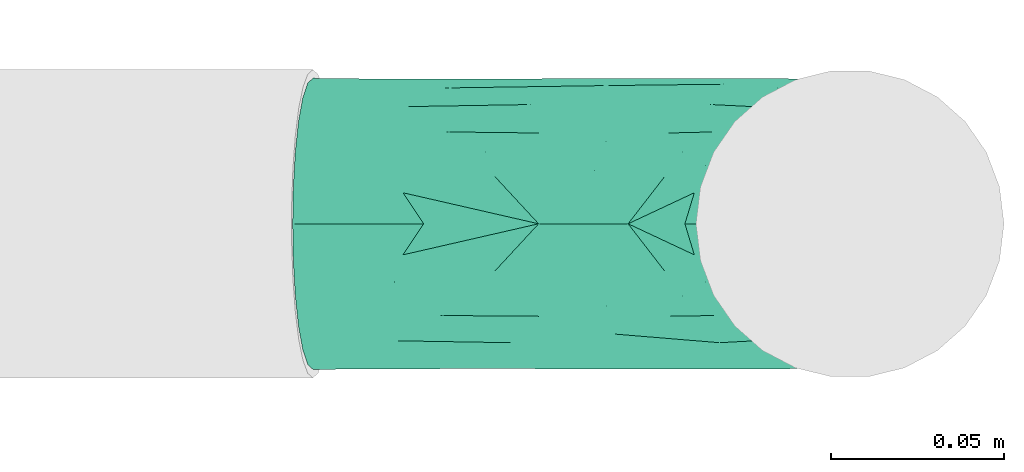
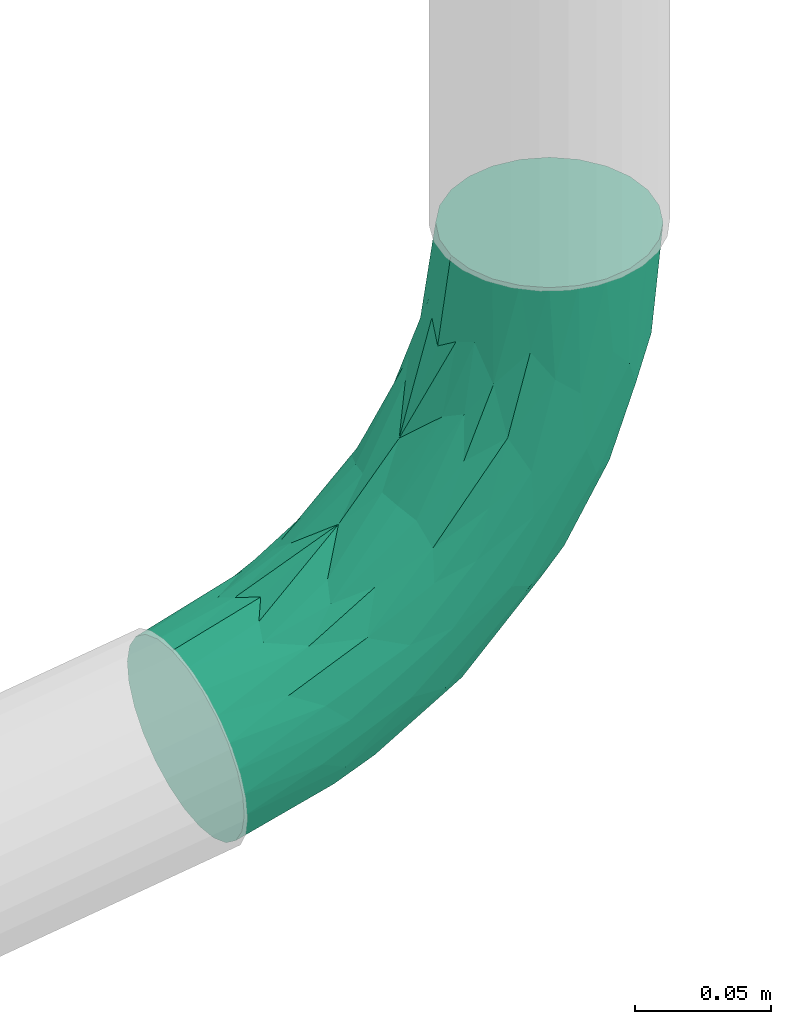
# One storey, part 13 of 55: 1 flow fitting.
"""IFC2X3 building model written with IfcOpenShell, lengths in millimetres."""

from ifc_helpers import new_model, entity, si_unit, converted_unit, direction, frame, origin, place, context, subcontext, project, spatial, faceted_brep, source, transform, mapped, material, type_object, type_shapes, element, save


model = new_model("IFC2X3")

# Units and contexts
model_context = context("Model", 3, precision=0.01, world=origin(), true_north=direction((6.123233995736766e-17, 1.0)))
plan_context = context("Plan", 3, precision=0.01, world=origin(), true_north=direction((6.123233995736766e-17, 1.0)))
body_context = subcontext(model_context, "Body", "Model", "MODEL_VIEW")
ifc_project = project(units=[si_unit("LENGTHUNIT", "METRE", prefix="MILLI"), converted_unit("PLANEANGLEUNIT", "DEGREE", entity("IfcPlaneAngleMeasure", 0.017453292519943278), si_unit("PLANEANGLEUNIT", "RADIAN"), dimensions=[0, 0, 0, 0, 0, 0, 0]), si_unit("AREAUNIT", "SQUARE_METRE")], contexts=[model_context, plan_context])

# Site, building, storey
site_placement = place(None, origin())
site = spatial("IfcSite", under=ifc_project, at=site_placement, Name="Default", CompositionType="ELEMENT")
building_placement = place(site_placement, origin())
building = spatial("IfcBuilding", under=site, at=building_placement, CompositionType="ELEMENT")
storey_placement = place(building_placement, origin())
storey = spatial("IfcBuildingStorey", under=building, at=storey_placement, Name="1K", CompositionType="ELEMENT", Elevation=0.0)

# Flow fitting
ifc_material = material(Name="<Unnamed>")
pipe_fitting_type = type_object("IfcPipeFittingType", Name="Elbow - Welded - SS:D+100", PredefinedType="NOTDEFINED", material=ifc_material)
shared_shape = source(origin(), body_context, "Body", "Brep", [
    faceted_brep([(-156.4716128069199, 21.0, -36.3730669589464), (-156.4716128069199, 10.870399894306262, -40.568884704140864), (-156.4716128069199, 0.0, -42.0), (-156.4716128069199, -10.87039989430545, -40.56888470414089), (-156.4716128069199, -21.0, -36.37306695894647), (-156.4716128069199, -29.6984848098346, -29.698484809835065), (-156.4716128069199, -36.37306695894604, -21.0), (-156.4716128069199, -40.56888470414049, -10.870399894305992), (-156.4716128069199, -42.0, 0.0), (-156.4716128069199, -40.568884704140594, 10.870399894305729), (-156.4716128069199, -36.373066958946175, 21.0), (-156.4716128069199, -29.698484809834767, 29.698484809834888), (-156.4716128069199, -21.0, 36.37306695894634), (-156.4716128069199, -10.87039989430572, 40.56888470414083), (-156.4716128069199, 0.0, 42.0), (-156.4716128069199, 10.870399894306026, 40.56888470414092), (-156.4716128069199, 21.0, 36.37306695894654), (-156.4716128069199, 29.698484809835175, 29.69848480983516), (-156.4716128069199, 36.37306695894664, 21.0), (-156.4716128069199, 40.568884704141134, 10.870399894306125), (-156.4716128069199, 42.0, 0.0), (-156.4716128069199, 40.5688847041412, -10.870399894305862), (-156.4716128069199, 36.37306695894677, -21.0), (-156.4716128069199, 29.69848480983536, -29.698484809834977), (21.77663956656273, 154.94884182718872, -42.0), (11.012029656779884, 156.46170908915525, -40.568884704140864), (0.9810101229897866, 157.8714769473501, -36.3730669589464), (-7.632821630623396, 159.08207205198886, -29.698484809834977), (-14.242447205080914, 160.01099434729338, -21.0), (-18.397431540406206, 160.59493931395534, -10.870399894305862), (-19.814619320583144, 160.79411206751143, 0.0), (-18.39743154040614, 160.59493931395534, 10.870399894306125), (-14.24244720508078, 160.01099434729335, 21.0), (-7.6328216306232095, 159.08207205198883, 29.69848480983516), (0.9810101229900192, 157.87147694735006, 36.37306695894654), (11.012029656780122, 156.46170908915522, 40.56888470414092), (21.776639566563, 154.9488418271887, 42.0), (32.54124947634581, 153.4359745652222, 40.56888470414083), (42.572269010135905, 152.02620670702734, 36.37306695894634), (51.186100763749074, 150.8156116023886, 29.698484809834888), (57.79572633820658, 149.88668930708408, 21.0), (61.95071067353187, 149.3027443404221, 10.870399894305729), (63.36789845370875, 149.10357158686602, 0.0), (61.95071067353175, 149.30274434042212, -10.870399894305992), (57.79572633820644, 149.8866893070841, -21.0), (51.186100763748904, 150.81561160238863, -29.698484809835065), (42.572269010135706, 152.02620670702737, -36.37306695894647), (32.54124947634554, 153.43597456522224, -40.56888470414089), (-111.3057597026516, 39.67040049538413, 26.504264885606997), (-124.91933139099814, 28.15685334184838, 33.81313334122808), (-77.65524779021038, -19.43290633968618, 24.035960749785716), (-120.10318641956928, -30.721653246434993, 24.880817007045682), (-105.59460883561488, -33.26848695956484, 14.939712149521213), (11.47977985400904, 130.28141997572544, 41.71972193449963), (16.649152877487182, 110.45948053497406, 41.48366299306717), (-78.74017956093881, -1.8972074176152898, 38.03690667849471), (-105.233269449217, -20.06730210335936, 32.56471476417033), (-59.94468156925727, -3.8021953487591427, 31.652009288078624), (-120.62994505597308, -38.34673077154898, 7.802501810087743), (-104.01903308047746, -35.71445681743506, 0.0), (-80.17695091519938, -27.789127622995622, 7.343073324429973), (10.99522293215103, 59.088080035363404, 32.53996426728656), (12.837258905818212, 77.70984530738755, 38.036906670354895), (-13.654919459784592, 40.0514468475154, 36.956429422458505), (-120.5630781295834, -13.560701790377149, 38.46593714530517), (-68.40825677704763, -20.67491966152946, 15.214530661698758), (-34.0136084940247, -2.3748192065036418, 13.78393924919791), (47.64064945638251, 99.93689076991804, 14.939712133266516), (30.051308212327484, 74.19497428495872, 24.035960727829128), (19.19344936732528, 47.74704435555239, 13.162490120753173), (-19.893280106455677, 47.79837807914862, 40.77213390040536), (-39.93188937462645, 45.936383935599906, 41.9334193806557), (-64.90619619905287, 18.416085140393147, 41.6080543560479), (-0.9449298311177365, 30.906396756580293, 22.52783406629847), (-23.458255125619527, 131.74837927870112, 16.773427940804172), (-130.6112067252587, 6.763609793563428, 41.71972193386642), (-54.53666015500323, -17.21375567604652, 0.0), (-10.826508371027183, 12.454473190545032, 0.0), (-113.70627231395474, 20.69630840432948, 39.20865273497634), (-99.7849306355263, 48.22063247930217, 20.698391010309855), (-127.20145502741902, 41.56579148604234, 16.773427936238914), (-123.9100093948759, 44.90282825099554, 8.955303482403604), (-33.86397440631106, 105.52484544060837, 20.69839101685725), (-64.02143175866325, 73.64823245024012, 15.380381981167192), (-61.13838242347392, 70.33166356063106, 23.679962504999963), (-96.55340788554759, 14.492181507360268, 41.810995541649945), (-111.70161072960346, -1.114136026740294, 41.48366299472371), (-81.71587978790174, 64.00180871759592, 0.0), (-117.5084917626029, 47.6146715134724, 0.0), (-30.265843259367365, 70.94956612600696, 39.869465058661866), (-0.9135074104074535, 97.63067856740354, 41.81099554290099), (-4.670038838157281, 115.48006008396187, 39.20865273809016), (38.87157178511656, 75.86724277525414, 7.274126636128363), (24.63626869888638, 51.61022137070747, 0.0), (49.843537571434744, 98.03623529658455, 0.0), (47.1378051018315, 114.6587226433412, 24.88081699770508), (-36.611305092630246, 2.637847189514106, 24.567771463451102), (34.51764892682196, 101.41631780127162, 32.564714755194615), (30.20786742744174, 117.50248162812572, 38.46593714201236), (-5.114362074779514, 18.983933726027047, 9.169381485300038), (-3.470987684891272, 76.947007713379, 41.76147513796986), (52.7057990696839, 107.80754414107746, 7.718125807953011), (-65.53168486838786, 75.38557993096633, 7.163821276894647), (-52.006295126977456, 89.82795664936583, 0.0), (-27.22089676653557, 128.95339154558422, 8.955303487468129), (-39.62404788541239, 102.41198808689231, 13.59564633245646), (-30.797267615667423, 122.99158868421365, 0.0), (-56.33856922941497, 54.823740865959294, 37.09265164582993), (-57.99007764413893, 63.84695588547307, 31.555877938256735), (-87.99033609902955, 39.941678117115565, 34.40024483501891), (-10.497422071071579, 127.6223015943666, 33.8131333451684), (-95.90072007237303, 53.49142331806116, 13.59564633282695), (-23.793563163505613, 115.74359231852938, 26.504264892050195), (-27.307080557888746, 92.69282732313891, 34.40024484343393), (-68.68945421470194, 36.672513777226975, 40.27086514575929), (-40.366312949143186, 89.56898909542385, 26.1918406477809), (-83.07940497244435, 52.43906470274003, 26.19184063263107), (-66.51594580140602, 26.37392661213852, 41.95355042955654), (-17.27402658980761, 69.68803179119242, 41.9318451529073), (-19.842932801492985, 22.82668292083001, 31.07345528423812), (-38.40638720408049, 15.466145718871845, 35.45766222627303), (-44.44157413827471, 20.348732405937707, 39.21609477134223), (-113.14727831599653, 39.12407347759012, -26.46532947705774), (-93.31894645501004, 37.5946662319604, -34.313434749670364), (-128.11536320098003, 27.59632127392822, -33.763302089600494), (-116.31148726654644, 20.085079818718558, -39.18423424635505), (-79.25987841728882, 30.830005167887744, -40.23974952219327), (-108.61945779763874, 10.932658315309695, -41.78020948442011), (4.290644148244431, 109.08391233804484, -41.78020948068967), (-127.20145618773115, 41.565791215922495, -16.77342799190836), (7.61020385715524, 32.53073901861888, -10.705006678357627), (-123.91001040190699, 44.902828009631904, -8.9553034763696), (-23.458254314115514, 131.748381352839, -16.773428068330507), (-27.22089650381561, 128.9533923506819, -8.955303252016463), (-95.90072217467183, 53.491422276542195, -13.595646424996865), (-65.53168617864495, 75.3855788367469, -7.163821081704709), (-31.57299612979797, 39.92603281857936, -41.29354332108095), (-82.37736675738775, 7.975940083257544, -41.36028508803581), (-60.236722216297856, 30.97090590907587, -41.91945793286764), (44.29435979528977, 106.01690790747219, -24.707603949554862), (-97.89370506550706, -18.187299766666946, -32.451299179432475), (-112.07619569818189, -11.985596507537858, -38.38274629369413), (-65.97966577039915, 0.943035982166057, -36.58729450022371), (-111.50511418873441, -29.180147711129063, -24.714520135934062), (-47.076742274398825, 54.155596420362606, -39.85370023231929), (-21.945393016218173, 65.09627343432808, -41.886807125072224), (-115.56666976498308, -37.403651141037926, -8.065170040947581), (-80.37337876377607, -27.97896121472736, -6.690142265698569), (-64.77383178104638, -19.78964677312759, -13.331309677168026), (-59.672615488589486, -11.64699088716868, -23.653792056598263), (-64.77301476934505, -8.196229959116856, -30.045187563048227), (-33.49841069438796, 11.478776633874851, -30.740254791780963), (-19.429023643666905, 82.75622585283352, -40.2607575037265), (-24.24131097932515, 97.64293809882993, -34.31343478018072), (-3.70218301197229, 117.97485432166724, -39.18423424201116), (-98.30225686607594, -31.461650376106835, -14.772171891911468), (-99.55087627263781, 48.25429895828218, -20.807028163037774), (-122.47180242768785, -3.1734891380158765, -41.52447618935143), (-39.62404609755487, 102.41199075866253, -13.595646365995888), (-64.02143425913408, 73.64823017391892, -15.380382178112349), (-33.632211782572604, -2.711362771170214, -12.27648033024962), (-9.4975435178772, 130.7092184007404, -33.76330212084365), (-22.996263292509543, 117.49115459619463, -26.46532968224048), (-33.92988655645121, 105.2977551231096, -20.807028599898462), (-61.138384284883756, 70.3316613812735, -23.679963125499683), (20.18738538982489, 120.83825073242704, -41.52447619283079), (44.261011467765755, 91.61724995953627, -14.739405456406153), (54.08522046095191, 112.29509041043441, -8.286442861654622), (39.24138643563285, 76.3322096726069, -6.628292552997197), (31.04137392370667, 93.05386481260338, -32.429070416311), (27.345452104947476, 108.98035866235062, -38.37927290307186), (28.014771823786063, 60.26098703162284, -12.99877810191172), (10.341844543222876, 55.1118416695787, -30.95744662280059), (8.006266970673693, 65.35881741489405, -36.66371510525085), (-66.71692059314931, 47.22803583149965, -37.073703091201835), (-52.817149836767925, 68.0499146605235, -31.80406896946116), (-40.806736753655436, 70.23354333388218, -36.63400117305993), (-83.17541264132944, 51.92877503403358, -26.6792477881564), (17.8055074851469, 54.51437245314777, -23.583456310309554), (3.5663945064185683, 82.6857118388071, -41.36028509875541), (-16.371478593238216, 16.069740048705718, -22.219282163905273), (-39.84762937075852, 89.59304159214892, -26.679247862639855), (-25.82338785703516, 29.70640937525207, -37.38480492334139)], [[[0, 1, 2, 3, 4, 5, 6, 7, 8, 9, 10, 11, 12, 13, 14, 15, 16, 17, 18, 19, 20, 21, 22, 23]], [[24, 25, 26, 27, 28, 29, 30, 31, 32, 33, 34, 35, 36, 37, 38, 39, 40, 41, 42, 43, 44, 45, 46, 47]], [[48, 17, 49]], [[50, 51, 52]], [[36, 53, 54]], [[55, 56, 57]], [[58, 8, 59]], [[16, 49, 17]], [[56, 12, 11]], [[58, 60, 52]], [[61, 62, 63]], [[11, 51, 56]], [[13, 12, 64]], [[65, 60, 66]], [[67, 68, 69]], [[70, 71, 72]], [[10, 9, 52]], [[18, 17, 48]], [[73, 69, 68]], [[74, 32, 31]], [[15, 14, 75]], [[66, 76, 77]], [[15, 75, 78]], [[48, 79, 80]], [[36, 35, 53]], [[20, 19, 81]], [[82, 83, 84]], [[85, 75, 86]], [[81, 87, 88]], [[89, 90, 91]], [[15, 78, 16]], [[92, 93, 94]], [[52, 60, 65]], [[85, 86, 72]], [[54, 37, 36]], [[64, 56, 55]], [[39, 95, 40]], [[41, 40, 67]], [[50, 96, 57]], [[61, 68, 97]], [[61, 97, 62]], [[67, 40, 95]], [[38, 37, 98]], [[97, 39, 38]], [[93, 69, 99]], [[100, 54, 90]], [[66, 73, 96]], [[41, 101, 42]], [[95, 97, 68]], [[35, 34, 91]], [[87, 102, 103]], [[104, 103, 105]], [[97, 38, 98]], [[106, 104, 30]], [[107, 108, 109]], [[10, 51, 11]], [[14, 13, 86]], [[34, 33, 110]], [[111, 83, 102]], [[110, 112, 113]], [[19, 80, 81]], [[104, 105, 74]], [[18, 80, 19]], [[32, 112, 33]], [[91, 90, 53]], [[82, 112, 74]], [[85, 114, 78]], [[92, 69, 93]], [[9, 58, 52]], [[108, 115, 84]], [[101, 67, 92]], [[116, 109, 108]], [[80, 79, 111]], [[112, 32, 74]], [[115, 112, 82]], [[64, 86, 13]], [[117, 72, 71]], [[85, 117, 114]], [[49, 78, 109]], [[110, 91, 34]], [[113, 108, 107]], [[118, 70, 100]], [[98, 54, 62]], [[68, 61, 73]], [[77, 99, 66]], [[86, 55, 72]], [[119, 63, 120]], [[121, 72, 55]], [[100, 62, 54]], [[114, 71, 89]], [[109, 78, 114]], [[89, 71, 118]], [[113, 89, 91]], [[54, 98, 37]], [[97, 98, 62]], [[56, 64, 12]], [[86, 64, 55]], [[52, 51, 10]], [[56, 51, 50]], [[97, 95, 39]], [[67, 95, 68]], [[96, 73, 119]], [[99, 73, 66]], [[57, 96, 119]], [[96, 50, 65]], [[63, 121, 120]], [[50, 57, 56]], [[78, 49, 16]], [[48, 49, 109]], [[112, 110, 33]], [[91, 110, 113]], [[63, 62, 70]], [[61, 119, 73]], [[121, 63, 70]], [[119, 61, 63]], [[72, 121, 70]], [[120, 55, 57]], [[55, 120, 121]], [[57, 119, 120]], [[104, 74, 31]], [[74, 105, 82]], [[30, 104, 31]], [[103, 104, 106]], [[83, 82, 105]], [[115, 82, 84]], [[79, 116, 84]], [[113, 112, 115]], [[109, 114, 107]], [[113, 115, 108]], [[114, 89, 107]], [[113, 107, 89]], [[48, 80, 18]], [[81, 80, 111]], [[87, 81, 111]], [[20, 81, 88]], [[116, 79, 48]], [[83, 79, 84]], [[109, 116, 48]], [[108, 84, 116]], [[118, 100, 90]], [[62, 100, 70]], [[89, 118, 90]], [[70, 118, 71]], [[105, 103, 102]], [[79, 83, 111]], [[111, 102, 87]], [[105, 102, 83]], [[86, 75, 14]], [[78, 75, 85]], [[91, 53, 35]], [[54, 53, 90]], [[8, 58, 9]], [[60, 59, 76]], [[59, 60, 58]], [[66, 60, 76]], [[96, 65, 66]], [[50, 52, 65]], [[101, 92, 94]], [[69, 92, 67]], [[42, 101, 94]], [[41, 67, 101]], [[93, 99, 77]], [[73, 99, 69]], [[114, 117, 71]], [[85, 72, 117]], [[122, 123, 124]], [[125, 123, 126]], [[1, 125, 127]], [[24, 128, 25]], [[22, 21, 129]], [[77, 130, 93]], [[88, 131, 20]], [[29, 132, 133]], [[131, 87, 134]], [[103, 135, 87]], [[136, 137, 138]], [[44, 139, 45]], [[28, 132, 29]], [[140, 141, 142]], [[6, 5, 143]], [[144, 145, 138]], [[8, 7, 146]], [[76, 147, 148]], [[149, 150, 151]], [[152, 153, 154]], [[141, 140, 4]], [[146, 155, 147]], [[6, 155, 7]], [[155, 143, 149]], [[156, 122, 129]], [[5, 140, 143]], [[127, 137, 157]], [[1, 0, 125]], [[125, 126, 127]], [[127, 2, 1]], [[135, 158, 159]], [[149, 160, 148]], [[30, 29, 133]], [[27, 161, 162]], [[132, 162, 163]], [[164, 156, 159]], [[165, 128, 24]], [[5, 4, 140]], [[128, 154, 25]], [[130, 77, 160]], [[47, 165, 24]], [[131, 134, 129]], [[166, 167, 168]], [[25, 154, 26]], [[137, 127, 138]], [[27, 26, 161]], [[4, 3, 141]], [[46, 169, 170]], [[171, 168, 93]], [[76, 160, 77]], [[43, 167, 44]], [[3, 2, 157]], [[45, 139, 169]], [[47, 46, 170]], [[46, 45, 169]], [[169, 172, 173]], [[94, 167, 42]], [[174, 175, 176]], [[177, 164, 175]], [[178, 169, 139]], [[27, 162, 28]], [[147, 76, 59]], [[173, 179, 170]], [[0, 23, 124]], [[167, 166, 44]], [[103, 106, 133]], [[142, 151, 150]], [[122, 23, 22]], [[180, 149, 151]], [[122, 22, 129]], [[177, 122, 156]], [[181, 153, 175]], [[132, 163, 158]], [[44, 166, 139]], [[178, 139, 166]], [[173, 170, 169]], [[165, 170, 179]], [[143, 140, 150]], [[155, 6, 143]], [[157, 141, 3]], [[142, 137, 182]], [[124, 125, 0]], [[123, 174, 126]], [[128, 145, 152]], [[161, 154, 153]], [[180, 130, 160]], [[168, 171, 166]], [[144, 152, 145]], [[138, 145, 136]], [[137, 142, 141]], [[142, 182, 151]], [[182, 173, 172]], [[151, 172, 180]], [[169, 178, 172]], [[173, 182, 136]], [[128, 179, 145]], [[179, 173, 136]], [[179, 136, 145]], [[137, 136, 182]], [[130, 180, 178]], [[160, 149, 180]], [[180, 172, 178]], [[182, 172, 151]], [[127, 157, 2]], [[141, 157, 137]], [[170, 165, 47]], [[128, 165, 179]], [[131, 129, 21]], [[129, 134, 156]], [[20, 131, 21]], [[87, 131, 88]], [[159, 156, 134]], [[177, 156, 164]], [[163, 181, 164]], [[123, 122, 177]], [[176, 175, 153]], [[123, 177, 175]], [[162, 132, 28]], [[133, 132, 158]], [[103, 133, 158]], [[30, 133, 106]], [[181, 163, 162]], [[159, 163, 164]], [[153, 181, 162]], [[175, 164, 181]], [[122, 124, 23]], [[125, 124, 123]], [[154, 161, 26]], [[162, 161, 153]], [[152, 144, 176]], [[128, 152, 154]], [[152, 176, 153]], [[174, 176, 144]], [[174, 144, 126]], [[175, 174, 123]], [[144, 138, 126]], [[127, 126, 138]], [[134, 87, 135]], [[163, 159, 158]], [[158, 135, 103]], [[134, 135, 159]], [[42, 167, 43]], [[168, 167, 94]], [[94, 93, 168]], [[171, 93, 130]], [[130, 178, 171]], [[178, 166, 171]], [[146, 147, 59]], [[148, 147, 155]], [[8, 146, 59]], [[7, 155, 146]], [[149, 148, 155]], [[76, 148, 160]], [[143, 150, 149]], [[142, 150, 140]]]),
])
type_shapes(pipe_fitting_type, [shared_shape])
flow_fitting_placement = place(storey_placement, frame((18799.839025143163, 5414.1126071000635, 2395.750072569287), z_axis=(0.0, 1.0, 0.0), x_axis=(0.0, 0.0, -1.0)))
element("IfcFlowFitting", 1, at=flow_fitting_placement, inside=storey, type_object=pipe_fitting_type, material=ifc_material, Name="Elbow - Welded - SS:D+100", ObjectType="Elbow - Welded - SS:D+100", context=body_context, shape_type="MappedRepresentation", body=[
    mapped(shared_shape, transform((0.0, 0.0, 0.0), scale=1.0)),
])

save(model, "model.ifc")
